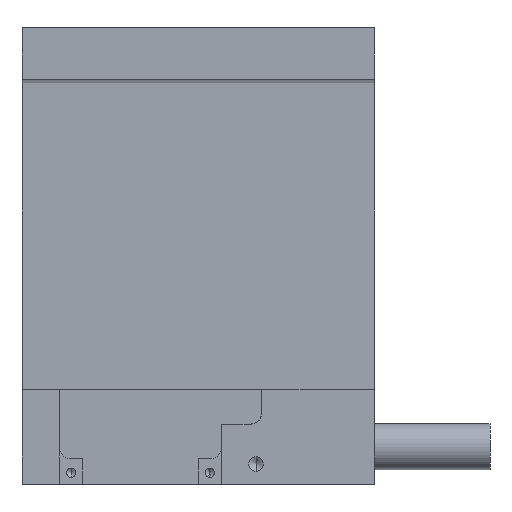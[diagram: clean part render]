
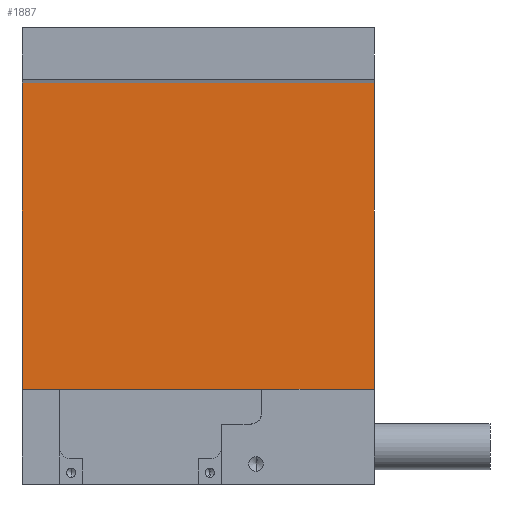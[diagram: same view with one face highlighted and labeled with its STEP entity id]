
A CAD part, left-side view. The second image highlights one B-rep face of the part: STEP entity #1887.
In plain terms, the highlighted planar face has unit normal (-1, 0, 0).
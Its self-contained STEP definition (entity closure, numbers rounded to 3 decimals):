
#19 = DIRECTION ( 'NONE',  ( 0., -1., 0. ) ) ;
#73 = DIRECTION ( 'NONE',  ( 0., 0., -1. ) ) ;
#109 = VERTEX_POINT ( 'NONE', #2209 ) ;
#146 = DIRECTION ( 'NONE',  ( 0., 0., 1. ) ) ;
#178 = CARTESIAN_POINT ( 'NONE',  ( -3.6, 61., -9.5 ) ) ;
#255 = VECTOR ( 'NONE', #146, 1000. ) ;
#304 = VERTEX_POINT ( 'NONE', #1878 ) ;
#370 = LINE ( 'NONE', #178, #1800 ) ;
#619 = FACE_OUTER_BOUND ( 'NONE', #1792, .T. ) ;
#624 = VECTOR ( 'NONE', #2204, 1000. ) ;
#669 = AXIS2_PLACEMENT_3D ( 'NONE', #1319, #783, #73 ) ;
#738 = LINE ( 'NONE', #2034, #624 ) ;
#783 = DIRECTION ( 'NONE',  ( 1., 0., 0. ) ) ;
#845 = DIRECTION ( 'NONE',  ( 0., 0., 1. ) ) ;
#895 = EDGE_CURVE ( 'NONE', #304, #109, #1642, .T. ) ;
#1023 = CARTESIAN_POINT ( 'NONE',  ( -3.6, 61., -62.6 ) ) ;
#1140 = ORIENTED_EDGE ( 'NONE', *, *, #2281, .F. ) ;
#1233 = EDGE_CURVE ( 'NONE', #304, #1961, #738, .T. ) ;
#1319 = CARTESIAN_POINT ( 'NONE',  ( -3.6, 61., -62.6 ) ) ;
#1344 = VECTOR ( 'NONE', #845, 1000. ) ;
#1472 = VERTEX_POINT ( 'NONE', #1924 ) ;
#1529 = ORIENTED_EDGE ( 'NONE', *, *, #1233, .T. ) ;
#1620 = PLANE ( 'NONE',  #669 ) ;
#1642 = LINE ( 'NONE', #1023, #1344 ) ;
#1752 = ORIENTED_EDGE ( 'NONE', *, *, #2106, .T. ) ;
#1792 = EDGE_LOOP ( 'NONE', ( #1752, #1140, #1823, #1529 ) ) ;
#1797 = CARTESIAN_POINT ( 'NONE',  ( -3.6, 0., -62.6 ) ) ;
#1800 = VECTOR ( 'NONE', #19, 1000. ) ;
#1823 = ORIENTED_EDGE ( 'NONE', *, *, #895, .F. ) ;
#1878 = CARTESIAN_POINT ( 'NONE',  ( -3.6, 61., -62.6 ) ) ;
#1887 = ADVANCED_FACE ( 'NONE', ( #619 ), #1620, .F. ) ;
#1924 = CARTESIAN_POINT ( 'NONE',  ( -3.6, 0., -9.5 ) ) ;
#1961 = VERTEX_POINT ( 'NONE', #1797 ) ;
#2007 = LINE ( 'NONE', #2041, #255 ) ;
#2034 = CARTESIAN_POINT ( 'NONE',  ( -3.6, 61., -62.6 ) ) ;
#2041 = CARTESIAN_POINT ( 'NONE',  ( -3.6, 0., -62.6 ) ) ;
#2106 = EDGE_CURVE ( 'NONE', #1961, #1472, #2007, .T. ) ;
#2204 = DIRECTION ( 'NONE',  ( 0., -1., 0. ) ) ;
#2209 = CARTESIAN_POINT ( 'NONE',  ( -3.6, 61., -9.5 ) ) ;
#2281 = EDGE_CURVE ( 'NONE', #109, #1472, #370, .T. ) ;
